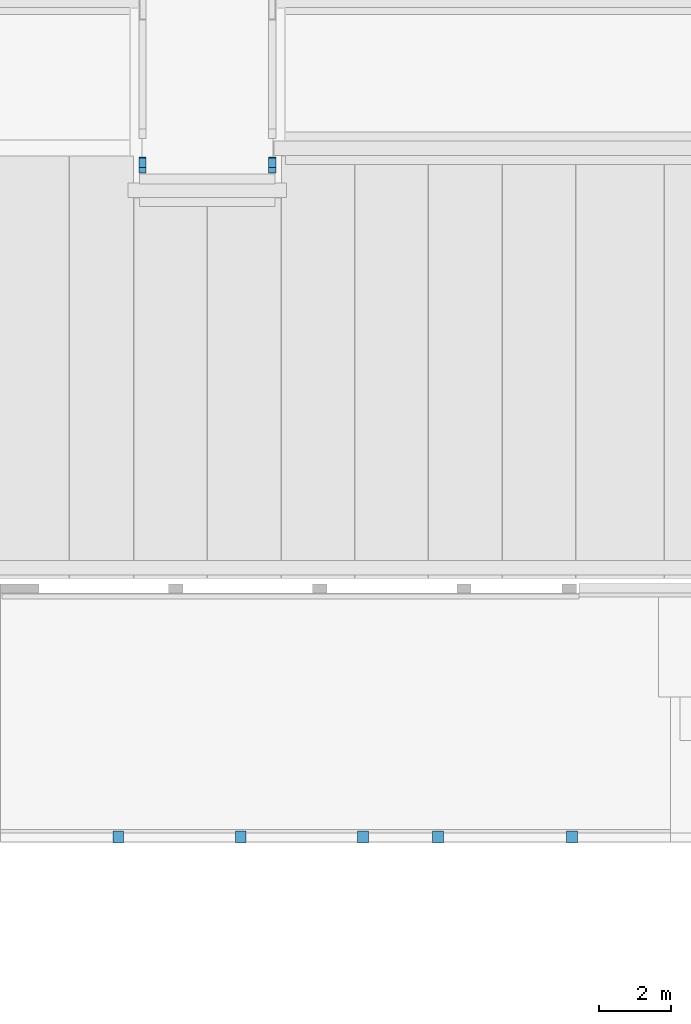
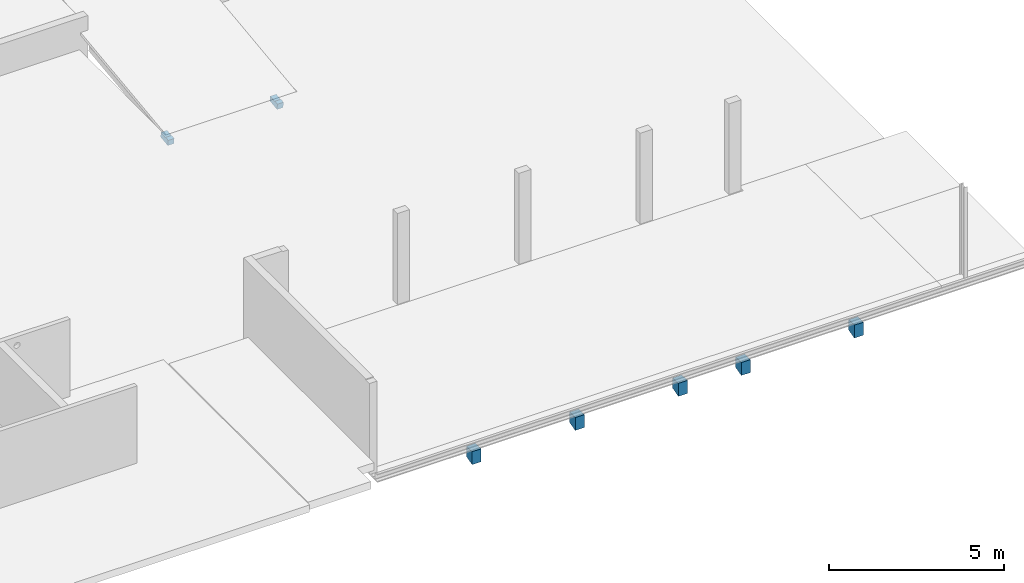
# One storey, part 36 of 36: 7 walls.
"""IFC2X3 building model written with IfcOpenShell, lengths in millimetres."""

import ifcopenshell
import ifcopenshell.guid

model = None  # the IFC model being written
_history = None  # IfcOwnerHistory: only IFC2X3 demands one
_inside = {}  # id of a spatial element -> (the spatial element, [elements in it])
_under = {}  # id of a project, library or spatial element -> (it, [spatial elements below it])
_declared = {}  # id of a project -> (the project, [libraries it declares])
_typed = {}  # id of a type object -> (the type object, [elements of that type])
_made_of = {}  # id of a material, layer set ... -> (it, [elements and type objects made of it])


def new_model(schema):
    """Start an empty IFC model of exactly this schema.

    Asked for "IFC4X3", IfcOpenShell would pick the latest addendum, in which some entities
    have other attributes; the version numbers below select the first issue.
    IFC2X3 requires an IfcOwnerHistory on every rooted entity: one is made here for all.
    """
    global model, _history
    if schema == "IFC4X3":
        model = ifcopenshell.file(schema_version=(4, 3, 0, 0))
    else:
        model = ifcopenshell.file(schema=schema)
    _inside.clear()
    _under.clear()
    _declared.clear()
    _typed.clear()
    _made_of.clear()
    _history = None
    if model.schema == "IFC2X3":
        org = make("IfcOrganization", Name="unknown")
        user = make(
            "IfcPersonAndOrganization",
            ThePerson=make("IfcPerson", FamilyName="unknown"),
            TheOrganization=org,
        )
        app = make(
            "IfcApplication",
            ApplicationDeveloper=org,
            Version="unknown",
            ApplicationFullName="unknown",
            ApplicationIdentifier="unknown",
        )
        _history = make(
            "IfcOwnerHistory",
            OwningUser=user,
            OwningApplication=app,
            ChangeAction="ADDED",
            CreationDate=0,
        )
    return model


def make(cls, **values):
    """One entity of the class cls with the attributes given. An attribute that is None is left unset."""
    return model.create_entity(
        cls, **{name: value for name, value in values.items() if value is not None}
    )


def entity(cls, *values):
    """Any entity or typed value of the class cls, its attributes in the order of the schema. None: left unset."""
    e = model.create_entity(cls)
    for i, value in enumerate(values):
        if value is not None:
            e[i] = value
    return e


def rooted(cls, **values):
    """An entity with a GlobalId (a new one), such as an element, a storey or a relation."""
    return make(cls, GlobalId=ifcopenshell.guid.new(), OwnerHistory=_history, **values)


def si_unit(unit_type, name, prefix=None):
    """IfcSIUnit, for example si_unit("LENGTHUNIT", "METRE", prefix="MILLI")."""
    return make("IfcSIUnit", UnitType=unit_type, Prefix=prefix, Name=name)


def converted_unit(unit_type, name, factor, base, dimensions=None, offset=None):
    """IfcConversionBasedUnit, such as the inch: factor (a typed value) times the base unit."""
    return make(
        "IfcConversionBasedUnit"
        if offset is None
        else "IfcConversionBasedUnitWithOffset",
        ConversionOffset=offset,
        Dimensions=None
        if dimensions is None
        else entity("IfcDimensionalExponents", *dimensions),
        UnitType=unit_type,
        Name=name,
        ConversionFactor=make(
            "IfcMeasureWithUnit", ValueComponent=factor, UnitComponent=base
        ),
    )


def derived_unit(unit_type, elements):
    """IfcDerivedUnit: a product of units, each with its exponent."""
    return make(
        "IfcDerivedUnit",
        Elements=[
            make("IfcDerivedUnitElement", Unit=unit, Exponent=power)
            for unit, power in elements
        ],
        UnitType=unit_type,
    )


def assignment(units):
    """IfcUnitAssignment: the units of a project."""
    return None if units is None else make("IfcUnitAssignment", Units=units)


def point(xyz):
    """IfcCartesianPoint."""
    return None if xyz is None else make("IfcCartesianPoint", Coordinates=xyz)


def direction(xyz):
    """IfcDirection."""
    return None if xyz is None else make("IfcDirection", DirectionRatios=xyz)


def frame(location, z_axis=None, x_axis=None):
    """IfcAxis2Placement3D, a coordinate frame: its origin and axes. An axis left out is left unset."""
    return make(
        "IfcAxis2Placement3D",
        Location=point(location),
        Axis=direction(z_axis),
        RefDirection=direction(x_axis),
    )


def origin():
    """The frame at (0, 0, 0) with its axes left unset."""
    return frame((0.0, 0.0, 0.0))


def place(relative_to, where):
    """IfcLocalPlacement: puts the frame where relative to a parent placement (None: the world)."""
    return make(
        "IfcLocalPlacement", PlacementRelTo=relative_to, RelativePlacement=where
    )


def context(
    kind, dimensions, precision=None, world=None, true_north=None, identifier=None
):
    """IfcGeometricRepresentationContext, for example the 3D "Model" context."""
    return make(
        "IfcGeometricRepresentationContext",
        ContextIdentifier=identifier,
        ContextType=kind,
        CoordinateSpaceDimension=dimensions,
        Precision=precision,
        WorldCoordinateSystem=world,
        TrueNorth=true_north,
    )


def subcontext(parent, identifier, kind, view, scale=None):
    """IfcGeometricRepresentationSubContext, for example "Body" below "Model"."""
    return make(
        "IfcGeometricRepresentationSubContext",
        ContextIdentifier=identifier,
        ContextType=kind,
        ParentContext=parent,
        TargetScale=scale,
        TargetView=view,
    )


def project(units=None, contexts=None):
    """IfcProject with its units and contexts."""
    return rooted(
        "IfcProject",
        Name="project",
        RepresentationContexts=contexts,
        UnitsInContext=assignment(units),
    )


def spatial(cls, under=None, at=None, **own):
    """A site, building, storey or space (cls), placed at a placement, below another one or the project."""
    s = rooted(cls, ObjectPlacement=at, **own)
    if under is not None:
        _under.setdefault(under.id(), (under, []))[1].append(s)
    return s


def faces_of(points, faces, orient=None, outer=None):
    """IfcFace entities. A face is a list of loops; a loop is a list of indices into points, from 0.

    orient and outer hold one flag for each loop. By default every Orientation is true, the
    first loop of a face is its IfcFaceOuterBound and the others are IfcFaceBound.
    """
    made = []
    for i, loops in enumerate(faces):
        bounds = []
        for j, loop in enumerate(loops):
            is_outer = j == 0 if outer is None else outer[i][j]
            bounds.append(
                make(
                    "IfcFaceOuterBound" if is_outer else "IfcFaceBound",
                    Bound=make("IfcPolyLoop", Polygon=[points[k] for k in loop]),
                    Orientation=True if orient is None else orient[i][j],
                )
            )
        made.append(make("IfcFace", Bounds=bounds))
    return made


def faceted_brep(points, faces, orient=None, outer=None, voids=None):
    """IfcFacetedBrep: a solid bounded by flat faces; with voids (closed shells), ...WithVoids."""
    shared = [point(p) for p in points]
    hull = make("IfcClosedShell", CfsFaces=faces_of(shared, faces, orient, outer))
    if voids is None:
        return make("IfcFacetedBrep", Outer=hull)
    return make(
        "IfcFacetedBrepWithVoids",
        Outer=hull,
        Voids=[
            make(cls, CfsFaces=faces_of(shared, fs, o, b)) for cls, fs, o, b in voids
        ],
    )


def shape(context_of_items, identifier, shape_type, items):
    """IfcShapeRepresentation: the items that make up one representation, for example the "Body"."""
    return make(
        "IfcShapeRepresentation",
        ContextOfItems=context_of_items,
        RepresentationIdentifier=identifier,
        RepresentationType=shape_type,
        Items=items,
    )


def material(Name=None, Category=None):
    """IfcMaterial."""
    return make("IfcMaterial", Name=Name, Category=Category)


def made_of(thing, what):
    """Note that an element or type object is made of a material, layer set ...; save() writes the relation."""
    if what is not None:
        _made_of.setdefault(what.id(), (what, []))[1].append(thing)
    return thing


def type_object(cls, material=None, **own):
    """A type object (cls), such as IfcWallType, which elements share."""
    return made_of(rooted(cls, **own), material)


def element(
    cls,
    number,
    at=None,
    inside=None,
    cuts=None,
    type_object=None,
    material=None,
    context=None,
    identifier="Body",
    shape_type=None,
    held_by="IfcProductDefinitionShape",
    body=None,
    shapes=None,
    **own,
):
    """One element of the class cls, such as IfcWall. Its Tag is "e" and its number.

    at: its placement. inside: the storey or other place that contains it. cuts: it is an
    opening in that element (IfcRelVoidsElement). A single representation is given by context,
    identifier, shape_type and body (its items); several are given by shapes. held_by: the class
    of the entity that holds the representations. save() writes the other relations.
    """
    e = rooted(cls, Tag="e%d" % number, ObjectPlacement=at, **own)
    if body is not None:
        shapes = [shape(context, identifier, shape_type, body)]
    if shapes is not None:
        e.Representation = make(held_by, Representations=shapes)
    if inside is not None:
        _inside.setdefault(inside.id(), (inside, []))[1].append(e)
    if cuts is not None:
        rooted(
            "IfcRelVoidsElement", RelatingBuildingElement=cuts, RelatedOpeningElement=e
        )
    if type_object is not None:
        _typed.setdefault(type_object.id(), (type_object, []))[1].append(e)
    return made_of(e, material)


def aggregate(whole, parts):
    """IfcRelAggregates: a whole, such as a stair, and the parts it consists of."""
    return rooted("IfcRelAggregates", RelatingObject=whole, RelatedObjects=parts)


def save(model, path):
    """Write the relations noted so far, then the file.

    IfcRelAggregates (storeys below a building ...), IfcRelContainedInSpatialStructure (elements
    in a storey), IfcRelDefinesByType, IfcRelAssociatesMaterial and IfcRelDeclares: one each for
    every whole, place, type object, material and project.
    """
    for whole, parts in _under.values():
        aggregate(whole, parts)
    for where, things in _inside.values():
        rooted(
            "IfcRelContainedInSpatialStructure",
            RelatedElements=things,
            RelatingStructure=where,
        )
    for kind, things in _typed.values():
        rooted("IfcRelDefinesByType", RelatedObjects=things, RelatingType=kind)
    for what, things in _made_of.values():
        rooted("IfcRelAssociatesMaterial", RelatedObjects=things, RelatingMaterial=what)
    for by, libraries in _declared.values():
        rooted("IfcRelDeclares", RelatingContext=by, RelatedDefinitions=libraries)
    model.write(path)


model = new_model("IFC2X3")

# Units and contexts
model_context = context("Model", 3, precision=0.01, world=origin(), true_north=direction((6.12303176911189e-17, 1.0)))
body_context = subcontext(model_context, "Body", "Model", "MODEL_VIEW")
ifc_project = project(units=[si_unit("LENGTHUNIT", "METRE", prefix="MILLI"), si_unit("AREAUNIT", "SQUARE_METRE"), si_unit("VOLUMEUNIT", "CUBIC_METRE"), converted_unit("PLANEANGLEUNIT", "DEGREE", entity("IfcRatioMeasure", 0.0174532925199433), si_unit("PLANEANGLEUNIT", "RADIAN"), dimensions=[0, 0, 0, 0, 0, 0, 0]), si_unit("MASSUNIT", "GRAM", prefix="KILO"), derived_unit("MASSDENSITYUNIT", [(si_unit("MASSUNIT", "GRAM", prefix="KILO"), 1), (si_unit("LENGTHUNIT", "METRE"), -3)]), si_unit("TIMEUNIT", "SECOND"), si_unit("FREQUENCYUNIT", "HERTZ"), si_unit("THERMODYNAMICTEMPERATUREUNIT", "DEGREE_CELSIUS"), derived_unit("THERMALTRANSMITTANCEUNIT", [(si_unit("MASSUNIT", "GRAM", prefix="KILO"), 1), (si_unit("THERMODYNAMICTEMPERATUREUNIT", "KELVIN"), -1), (si_unit("TIMEUNIT", "SECOND"), -3)]), derived_unit("VOLUMETRICFLOWRATEUNIT", [(si_unit("LENGTHUNIT", "METRE"), 3), (si_unit("TIMEUNIT", "SECOND"), -1)]), si_unit("ELECTRICCURRENTUNIT", "AMPERE"), si_unit("ELECTRICVOLTAGEUNIT", "VOLT"), si_unit("POWERUNIT", "WATT"), si_unit("FORCEUNIT", "NEWTON", prefix="KILO"), si_unit("ILLUMINANCEUNIT", "LUX"), si_unit("LUMINOUSFLUXUNIT", "LUMEN"), si_unit("LUMINOUSINTENSITYUNIT", "CANDELA"), derived_unit("USERDEFINED", [(si_unit("MASSUNIT", "GRAM", prefix="KILO"), -1), (si_unit("LENGTHUNIT", "METRE"), -2), (si_unit("TIMEUNIT", "SECOND"), 3), (si_unit("LUMINOUSFLUXUNIT", "LUMEN"), 1)]), derived_unit("LINEARVELOCITYUNIT", [(si_unit("LENGTHUNIT", "METRE"), 1), (si_unit("TIMEUNIT", "SECOND"), -1)]), si_unit("PRESSUREUNIT", "PASCAL"), derived_unit("USERDEFINED", [(si_unit("LENGTHUNIT", "METRE"), -2), (si_unit("MASSUNIT", "GRAM", prefix="KILO"), 1), (si_unit("TIMEUNIT", "SECOND"), -2)])], contexts=[model_context])

# Site, building, storey
site_placement = place(None, origin())
site = spatial("IfcSite", under=ifc_project, at=site_placement, Name="Default", CompositionType="ELEMENT")
building_placement = place(site_placement, origin())
building = spatial("IfcBuilding", under=site, at=building_placement, Name="niet gebruiken", CompositionType="ELEMENT")
storey_placement = place(building_placement, frame((0.0, 0.0, 12600.0)))
storey = spatial("IfcBuildingStorey", under=building, at=storey_placement, Name="04 vierde verdieping", CompositionType="ELEMENT", Elevation=12600.0)

# Walls
ifc_material = material(Name="NLRS_f2_beton prefab")
wall_type_1 = type_object("IfcWallType", Name="NLRS_21.21_SF_WPB_oplegnok prefabbeton_gen:200x200", PredefinedType="NOTDEFINED", material=ifc_material)
wall_1_placement = place(storey_placement, frame((110375.0, 20156.3042567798, -1928.65544605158), z_axis=(0.0, 0.0, 1.0), x_axis=(0.0, 1.0, 0.0)))
element("IfcWall", 1, at=wall_1_placement, inside=storey, type_object=wall_type_1, material=ifc_material, Name="NLRS_21.21_SF_WPB_oplegnok prefabbeton_gen:200x200", ObjectType="NLRS_21.21_SF_WPB_oplegnok prefabbeton_gen:200x200", context=body_context, shape_type="Brep", body=[
    faceted_brep([(24.7653820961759, -200.0, 0.0), (0.0, -200.0, 198.460766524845), (0.0, 0.0, 198.460766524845), (24.7653820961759, 0.0, 0.0), (437.867037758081, -200.0, 51.5498379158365), (437.867037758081, 0.0, 51.5498379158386), (415.578193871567, 0.0, 230.164527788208), (415.578193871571, -200.0, 230.164527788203), (147.65615906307, -200.0, 196.731261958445), (145.179620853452, -200.0, 216.577338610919), (145.179620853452, 0.0, 216.577338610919), (147.656159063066, 0.0, 196.731261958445)], [[[0, 1, 2, 3]], [[4, 5, 6, 7]], [[1, 0, 4, 7, 8, 9]], [[3, 2, 10, 11, 6, 5]], [[2, 1, 9, 10]], [[0, 3, 5, 4]], [[8, 11, 10, 9]], [[11, 8, 7, 6]]]),
])
wall_2_placement = place(storey_placement, frame((106775.0, 20156.3042567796, -1928.65544605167), z_axis=(0.0, 0.0, 1.0), x_axis=(0.0, 1.0, 0.0)))
element("IfcWall", 2, at=wall_2_placement, inside=storey, type_object=wall_type_1, material=ifc_material, Name="NLRS_21.21_SF_WPB_oplegnok prefabbeton_gen:200x200", ObjectType="NLRS_21.21_SF_WPB_oplegnok prefabbeton_gen:200x200", context=body_context, shape_type="Brep", body=[
    faceted_brep([(0.0, 0.0, 198.460766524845), (24.7653820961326, 0.0, 0.0), (24.7653820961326, -200.0, 0.0), (0.0, -200.0, 198.460766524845), (437.867037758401, -200.0, 51.5498379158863), (437.867037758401, 0.0, 51.5498379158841), (415.578193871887, 0.0, 230.164527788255), (415.578193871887, -200.0, 230.164527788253), (145.179620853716, 0.0, 216.577338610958), (147.65615906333, 0.0, 196.731261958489), (147.65615906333, -200.0, 196.731261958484), (145.17962085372, -200.0, 216.577338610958)], [[[0, 1, 2, 3]], [[4, 5, 6, 7]], [[1, 0, 8, 9, 6, 5]], [[3, 2, 4, 7, 10, 11]], [[0, 3, 11, 8]], [[2, 1, 5, 4]], [[10, 9, 8, 11]], [[9, 10, 7, 6]]]),
])
wall_type_2 = type_object("IfcWallType", Name="NLRS_21.21_SF_WPB_oplegnok prefabbeton_gen:325x450 met afschuining 15gr", PredefinedType="NOTDEFINED", material=ifc_material)
for number, where, z_axis, x_axis, name in (
    (3, (109450.000370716, 1550.0, -1495.0), (0.0, 0.0, 1.0), (0.0, 1.0, 0.0), "NLRS_21.21_SF_WPB_oplegnok prefabbeton_gen:325x450 met afschuining 15gr"),
    (4, (106050.000370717, 1550.0, -1495.0), (0.0, 0.0, 1.0), (0.0, 1.0, 0.0), "NLRS_21.21_SF_WPB_oplegnok prefabbeton_gen:325x450 met afschuining 15gr"),
    (5, (112850.000370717, 1550.0, -1495.0), (0.0, 0.0, 1.0), (0.0, 1.0, 0.0), "NLRS_21.21_SF_WPB_oplegnok prefabbeton_gen:325x450 met afschuining 15gr"),
    (6, (114925.000813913, 1550.0, -1495.0), (0.0, 0.0, 1.0), (0.0, 1.0, 0.0), "NLRS_21.21_SF_WPB_oplegnok prefabbeton_gen:325x450 met afschuining 15gr"),
    (7, (118650.0, 1550.0, -1495.0), (0.0, 0.0, 1.0), (0.0, 1.0, 0.0), "NLRS_21.21_SF_WPB_oplegnok prefabbeton_gen:325x450 met afschuining 15gr"),
):
    element("IfcWall", number, at=place(storey_placement, frame(where, z_axis=z_axis, x_axis=x_axis)), inside=storey, type_object=wall_type_2, material=ifc_material, Name=name, ObjectType="NLRS_21.21_SF_WPB_oplegnok prefabbeton_gen:325x450 met afschuining 15gr", context=body_context, shape_type="Brep", body=[
        faceted_brep([(0.0, 0.0, 450.0), (325.0, 0.0, 450.0), (325.0, 0.0, 87.0834875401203), (0.0, 0.0, 0.0), (0.0, -300.0, 450.0), (0.0, -300.0, 0.0), (325.0, -300.0, 87.0834875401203), (325.0, -300.0, 450.0)], [[[0, 1, 2, 3]], [[4, 5, 6, 7]], [[3, 5, 4, 0]], [[1, 7, 6, 2]], [[0, 4, 7, 1]], [[2, 6, 5, 3]]]),
    ])

save(model, "model.ifc")
